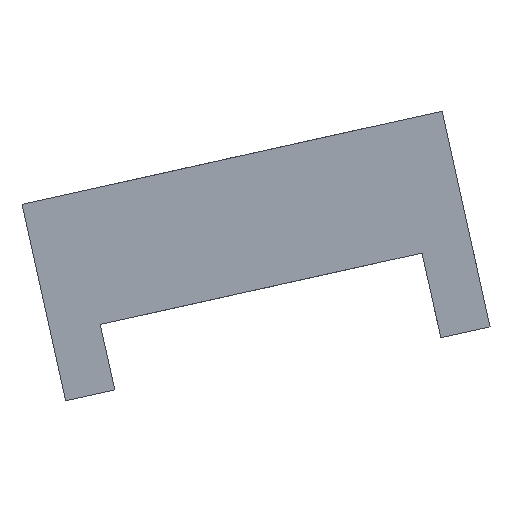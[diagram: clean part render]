
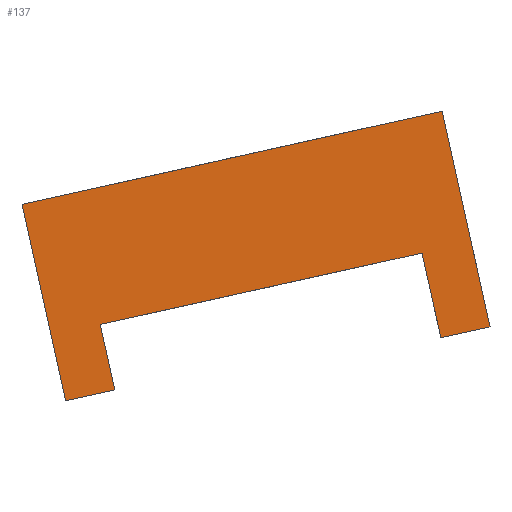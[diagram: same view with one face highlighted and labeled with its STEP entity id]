
A CAD part, front view. The second image highlights one B-rep face of the part: STEP entity #137.
In plain terms, the highlighted planar face has unit normal (0, -1, 0).
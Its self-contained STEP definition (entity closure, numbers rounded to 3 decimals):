
#21 = EDGE_CURVE('',#22,#24,#26,.T.);
#22 = VERTEX_POINT('',#23);
#23 = CARTESIAN_POINT('',(-2.136,-29.3,-190.889));
#24 = VERTEX_POINT('',#25);
#25 = CARTESIAN_POINT('',(-4.733,-29.3,-179.174));
#26 = SURFACE_CURVE('',#27,(#31,#43),.PCURVE_S1.);
#27 = LINE('',#28,#29);
#28 = CARTESIAN_POINT('',(-2.136,-29.3,-190.889));
#29 = VECTOR('',#30,1.);
#30 = DIRECTION('',(-0.216,0.,0.976));
#31 = PCURVE('',#32,#37);
#32 = PLANE('',#33);
#33 = AXIS2_PLACEMENT_3D('',#34,#35,#36);
#34 = CARTESIAN_POINT('',(-3.002,-29.3,-186.984));
#35 = DIRECTION('',(0.976,0.,0.216));
#36 = DIRECTION('',(-0.216,0.,0.976));
#37 = DEFINITIONAL_REPRESENTATION('',(#38),#42);
#38 = LINE('',#39,#40);
#39 = CARTESIAN_POINT('',(-4.,0.));
#40 = VECTOR('',#41,1.);
#41 = DIRECTION('',(1.,0.));
#42 = ( GEOMETRIC_REPRESENTATION_CONTEXT(2) 
PARAMETRIC_REPRESENTATION_CONTEXT() REPRESENTATION_CONTEXT('2D SPACE',''
  ) );
#43 = PCURVE('',#44,#49);
#44 = PLANE('',#45);
#45 = AXIS2_PLACEMENT_3D('',#46,#47,#48);
#46 = CARTESIAN_POINT('',(-3.002,-29.3,-186.984));
#47 = DIRECTION('',(0.,1.,0.));
#48 = DIRECTION('',(-0.216,0.,0.976));
#49 = DEFINITIONAL_REPRESENTATION('',(#50),#54);
#50 = LINE('',#51,#52);
#51 = CARTESIAN_POINT('',(-4.,0.));
#52 = VECTOR('',#53,1.);
#53 = DIRECTION('',(1.,0.));
#54 = ( GEOMETRIC_REPRESENTATION_CONTEXT(2) 
PARAMETRIC_REPRESENTATION_CONTEXT() REPRESENTATION_CONTEXT('2D SPACE',''
  ) );
#72 = PLANE('',#73);
#73 = AXIS2_PLACEMENT_3D('',#74,#75,#76);
#74 = CARTESIAN_POINT('',(-2.136,-29.3,-190.889));
#75 = DIRECTION('',(-0.216,0.,0.976));
#76 = DIRECTION('',(0.976,0.,0.216));
#126 = PLANE('',#127);
#127 = AXIS2_PLACEMENT_3D('',#128,#129,#130);
#128 = CARTESIAN_POINT('',(-4.733,-29.3,-179.174));
#129 = DIRECTION('',(-0.216,0.,0.976));
#130 = DIRECTION('',(0.976,0.,0.216));
#137 = ADVANCED_FACE('',(#138),#44,.F.);
#138 = FACE_BOUND('',#139,.F.);
#139 = EDGE_LOOP('',(#140,#170,#198,#219,#220,#243,#271,#299));
#140 = ORIENTED_EDGE('',*,*,#141,.F.);
#141 = EDGE_CURVE('',#142,#144,#146,.T.);
#142 = VERTEX_POINT('',#143);
#143 = CARTESIAN_POINT('',(-0.073,-29.3,-186.335));
#144 = VERTEX_POINT('',#145);
#145 = CARTESIAN_POINT('',(19.111,-29.3,-182.082));
#146 = SURFACE_CURVE('',#147,(#151,#158),.PCURVE_S1.);
#147 = LINE('',#148,#149);
#148 = CARTESIAN_POINT('',(-3.002,-29.3,-186.984));
#149 = VECTOR('',#150,1.);
#150 = DIRECTION('',(0.976,0.,0.216));
#151 = PCURVE('',#44,#152);
#152 = DEFINITIONAL_REPRESENTATION('',(#153),#157);
#153 = LINE('',#154,#155);
#154 = CARTESIAN_POINT('',(0.,0.));
#155 = VECTOR('',#156,1.);
#156 = DIRECTION('',(0.,1.));
#157 = ( GEOMETRIC_REPRESENTATION_CONTEXT(2) 
PARAMETRIC_REPRESENTATION_CONTEXT() REPRESENTATION_CONTEXT('2D SPACE',''
  ) );
#158 = PCURVE('',#159,#164);
#159 = PLANE('',#160);
#160 = AXIS2_PLACEMENT_3D('',#161,#162,#163);
#161 = CARTESIAN_POINT('',(-3.002,-29.3,-186.984));
#162 = DIRECTION('',(-0.216,0.,0.976));
#163 = DIRECTION('',(0.976,0.,0.216));
#164 = DEFINITIONAL_REPRESENTATION('',(#165),#169);
#165 = LINE('',#166,#167);
#166 = CARTESIAN_POINT('',(0.,0.));
#167 = VECTOR('',#168,1.);
#168 = DIRECTION('',(1.,0.));
#169 = ( GEOMETRIC_REPRESENTATION_CONTEXT(2) 
PARAMETRIC_REPRESENTATION_CONTEXT() REPRESENTATION_CONTEXT('2D SPACE',''
  ) );
#170 = ORIENTED_EDGE('',*,*,#171,.F.);
#171 = EDGE_CURVE('',#172,#142,#174,.T.);
#172 = VERTEX_POINT('',#173);
#173 = CARTESIAN_POINT('',(0.793,-29.3,-190.24));
#174 = SURFACE_CURVE('',#175,(#179,#186),.PCURVE_S1.);
#175 = LINE('',#176,#177);
#176 = CARTESIAN_POINT('',(0.793,-29.3,-190.24));
#177 = VECTOR('',#178,1.);
#178 = DIRECTION('',(-0.216,0.,0.976));
#179 = PCURVE('',#44,#180);
#180 = DEFINITIONAL_REPRESENTATION('',(#181),#185);
#181 = LINE('',#182,#183);
#182 = CARTESIAN_POINT('',(-4.,3.));
#183 = VECTOR('',#184,1.);
#184 = DIRECTION('',(1.,0.));
#185 = ( GEOMETRIC_REPRESENTATION_CONTEXT(2) 
PARAMETRIC_REPRESENTATION_CONTEXT() REPRESENTATION_CONTEXT('2D SPACE',''
  ) );
#186 = PCURVE('',#187,#192);
#187 = PLANE('',#188);
#188 = AXIS2_PLACEMENT_3D('',#189,#190,#191);
#189 = CARTESIAN_POINT('',(0.793,-29.3,-190.24));
#190 = DIRECTION('',(0.976,0.,0.216));
#191 = DIRECTION('',(-0.216,0.,0.976));
#192 = DEFINITIONAL_REPRESENTATION('',(#193),#197);
#193 = LINE('',#194,#195);
#194 = CARTESIAN_POINT('',(0.,0.));
#195 = VECTOR('',#196,1.);
#196 = DIRECTION('',(1.,0.));
#197 = ( GEOMETRIC_REPRESENTATION_CONTEXT(2) 
PARAMETRIC_REPRESENTATION_CONTEXT() REPRESENTATION_CONTEXT('2D SPACE',''
  ) );
#198 = ORIENTED_EDGE('',*,*,#199,.F.);
#199 = EDGE_CURVE('',#22,#172,#200,.T.);
#200 = SURFACE_CURVE('',#201,(#205,#212),.PCURVE_S1.);
#201 = LINE('',#202,#203);
#202 = CARTESIAN_POINT('',(-2.136,-29.3,-190.889));
#203 = VECTOR('',#204,1.);
#204 = DIRECTION('',(0.976,0.,0.216));
#205 = PCURVE('',#44,#206);
#206 = DEFINITIONAL_REPRESENTATION('',(#207),#211);
#207 = LINE('',#208,#209);
#208 = CARTESIAN_POINT('',(-4.,0.));
#209 = VECTOR('',#210,1.);
#210 = DIRECTION('',(0.,1.));
#211 = ( GEOMETRIC_REPRESENTATION_CONTEXT(2) 
PARAMETRIC_REPRESENTATION_CONTEXT() REPRESENTATION_CONTEXT('2D SPACE',''
  ) );
#212 = PCURVE('',#72,#213);
#213 = DEFINITIONAL_REPRESENTATION('',(#214),#218);
#214 = LINE('',#215,#216);
#215 = CARTESIAN_POINT('',(0.,0.));
#216 = VECTOR('',#217,1.);
#217 = DIRECTION('',(1.,0.));
#218 = ( GEOMETRIC_REPRESENTATION_CONTEXT(2) 
PARAMETRIC_REPRESENTATION_CONTEXT() REPRESENTATION_CONTEXT('2D SPACE',''
  ) );
#219 = ORIENTED_EDGE('',*,*,#21,.T.);
#220 = ORIENTED_EDGE('',*,*,#221,.T.);
#221 = EDGE_CURVE('',#24,#222,#224,.T.);
#222 = VERTEX_POINT('',#223);
#223 = CARTESIAN_POINT('',(20.309,-29.3,-173.622));
#224 = SURFACE_CURVE('',#225,(#229,#236),.PCURVE_S1.);
#225 = LINE('',#226,#227);
#226 = CARTESIAN_POINT('',(-4.733,-29.3,-179.174));
#227 = VECTOR('',#228,1.);
#228 = DIRECTION('',(0.976,0.,0.216));
#229 = PCURVE('',#44,#230);
#230 = DEFINITIONAL_REPRESENTATION('',(#231),#235);
#231 = LINE('',#232,#233);
#232 = CARTESIAN_POINT('',(8.,0.));
#233 = VECTOR('',#234,1.);
#234 = DIRECTION('',(0.,1.));
#235 = ( GEOMETRIC_REPRESENTATION_CONTEXT(2) 
PARAMETRIC_REPRESENTATION_CONTEXT() REPRESENTATION_CONTEXT('2D SPACE',''
  ) );
#236 = PCURVE('',#126,#237);
#237 = DEFINITIONAL_REPRESENTATION('',(#238),#242);
#238 = LINE('',#239,#240);
#239 = CARTESIAN_POINT('',(0.,0.));
#240 = VECTOR('',#241,1.);
#241 = DIRECTION('',(1.,0.));
#242 = ( GEOMETRIC_REPRESENTATION_CONTEXT(2) 
PARAMETRIC_REPRESENTATION_CONTEXT() REPRESENTATION_CONTEXT('2D SPACE',''
  ) );
#243 = ORIENTED_EDGE('',*,*,#244,.F.);
#244 = EDGE_CURVE('',#245,#222,#247,.T.);
#245 = VERTEX_POINT('',#246);
#246 = CARTESIAN_POINT('',(23.16,-29.3,-186.485));
#247 = SURFACE_CURVE('',#248,(#252,#259),.PCURVE_S1.);
#248 = LINE('',#249,#250);
#249 = CARTESIAN_POINT('',(23.16,-29.3,-186.485));
#250 = VECTOR('',#251,1.);
#251 = DIRECTION('',(-0.216,0.,0.976));
#252 = PCURVE('',#44,#253);
#253 = DEFINITIONAL_REPRESENTATION('',(#254),#258);
#254 = LINE('',#255,#256);
#255 = CARTESIAN_POINT('',(-5.175,25.65));
#256 = VECTOR('',#257,1.);
#257 = DIRECTION('',(1.,0.));
#258 = ( GEOMETRIC_REPRESENTATION_CONTEXT(2) 
PARAMETRIC_REPRESENTATION_CONTEXT() REPRESENTATION_CONTEXT('2D SPACE',''
  ) );
#259 = PCURVE('',#260,#265);
#260 = PLANE('',#261);
#261 = AXIS2_PLACEMENT_3D('',#262,#263,#264);
#262 = CARTESIAN_POINT('',(22.04,-29.3,-181.433));
#263 = DIRECTION('',(0.976,0.,0.216));
#264 = DIRECTION('',(-0.216,0.,0.976));
#265 = DEFINITIONAL_REPRESENTATION('',(#266),#270);
#266 = LINE('',#267,#268);
#267 = CARTESIAN_POINT('',(-5.175,0.));
#268 = VECTOR('',#269,1.);
#269 = DIRECTION('',(1.,0.));
#270 = ( GEOMETRIC_REPRESENTATION_CONTEXT(2) 
PARAMETRIC_REPRESENTATION_CONTEXT() REPRESENTATION_CONTEXT('2D SPACE',''
  ) );
#271 = ORIENTED_EDGE('',*,*,#272,.F.);
#272 = EDGE_CURVE('',#273,#245,#275,.T.);
#273 = VERTEX_POINT('',#274);
#274 = CARTESIAN_POINT('',(20.231,-29.3,-187.134));
#275 = SURFACE_CURVE('',#276,(#280,#287),.PCURVE_S1.);
#276 = LINE('',#277,#278);
#277 = CARTESIAN_POINT('',(20.231,-29.3,-187.134));
#278 = VECTOR('',#279,1.);
#279 = DIRECTION('',(0.976,0.,0.216));
#280 = PCURVE('',#44,#281);
#281 = DEFINITIONAL_REPRESENTATION('',(#282),#286);
#282 = LINE('',#283,#284);
#283 = CARTESIAN_POINT('',(-5.175,22.65));
#284 = VECTOR('',#285,1.);
#285 = DIRECTION('',(0.,1.));
#286 = ( GEOMETRIC_REPRESENTATION_CONTEXT(2) 
PARAMETRIC_REPRESENTATION_CONTEXT() REPRESENTATION_CONTEXT('2D SPACE',''
  ) );
#287 = PCURVE('',#288,#293);
#288 = PLANE('',#289);
#289 = AXIS2_PLACEMENT_3D('',#290,#291,#292);
#290 = CARTESIAN_POINT('',(20.231,-29.3,-187.134));
#291 = DIRECTION('',(-0.216,0.,0.976));
#292 = DIRECTION('',(0.976,0.,0.216));
#293 = DEFINITIONAL_REPRESENTATION('',(#294),#298);
#294 = LINE('',#295,#296);
#295 = CARTESIAN_POINT('',(0.,0.));
#296 = VECTOR('',#297,1.);
#297 = DIRECTION('',(1.,0.));
#298 = ( GEOMETRIC_REPRESENTATION_CONTEXT(2) 
PARAMETRIC_REPRESENTATION_CONTEXT() REPRESENTATION_CONTEXT('2D SPACE',''
  ) );
#299 = ORIENTED_EDGE('',*,*,#300,.T.);
#300 = EDGE_CURVE('',#273,#144,#301,.T.);
#301 = SURFACE_CURVE('',#302,(#306,#313),.PCURVE_S1.);
#302 = LINE('',#303,#304);
#303 = CARTESIAN_POINT('',(20.231,-29.3,-187.134));
#304 = VECTOR('',#305,1.);
#305 = DIRECTION('',(-0.216,0.,0.976));
#306 = PCURVE('',#44,#307);
#307 = DEFINITIONAL_REPRESENTATION('',(#308),#312);
#308 = LINE('',#309,#310);
#309 = CARTESIAN_POINT('',(-5.175,22.65));
#310 = VECTOR('',#311,1.);
#311 = DIRECTION('',(1.,0.));
#312 = ( GEOMETRIC_REPRESENTATION_CONTEXT(2) 
PARAMETRIC_REPRESENTATION_CONTEXT() REPRESENTATION_CONTEXT('2D SPACE',''
  ) );
#313 = PCURVE('',#314,#319);
#314 = PLANE('',#315);
#315 = AXIS2_PLACEMENT_3D('',#316,#317,#318);
#316 = CARTESIAN_POINT('',(20.231,-29.3,-187.134));
#317 = DIRECTION('',(0.976,0.,0.216));
#318 = DIRECTION('',(-0.216,0.,0.976));
#319 = DEFINITIONAL_REPRESENTATION('',(#320),#324);
#320 = LINE('',#321,#322);
#321 = CARTESIAN_POINT('',(0.,0.));
#322 = VECTOR('',#323,1.);
#323 = DIRECTION('',(1.,0.));
#324 = ( GEOMETRIC_REPRESENTATION_CONTEXT(2) 
PARAMETRIC_REPRESENTATION_CONTEXT() REPRESENTATION_CONTEXT('2D SPACE',''
  ) );
